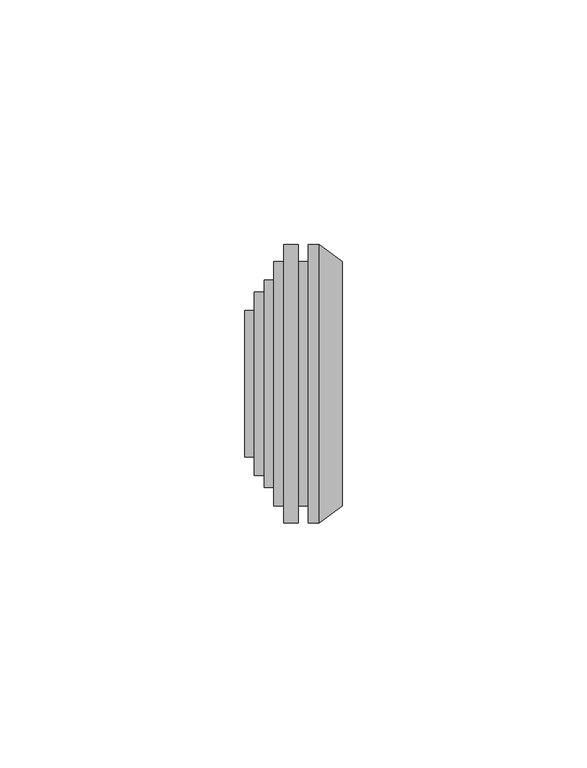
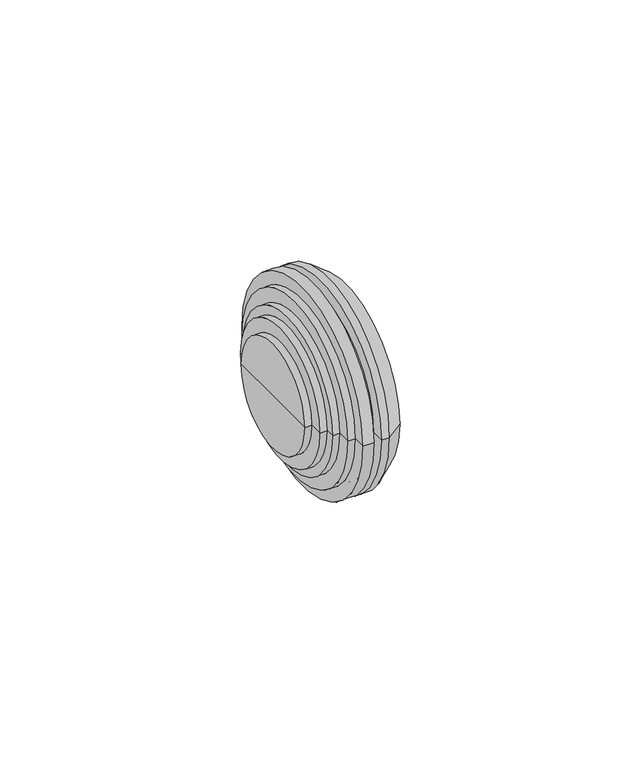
"""IFC4 building model written with IfcOpenShell, lengths in millimetres: cable carrier fitting geometry, КНС_КабельныйВводДляТруб_IP55_DKC : Коробка."""

from ifc_helpers import new_model, si_unit, frame, origin, place, context, project, spatial, polyline, circle_curve, source, transform, mapped, element, save
from ifc_brep_helpers import plane_surface, cylinder_surface, revolved_surface, advanced_brep


def cable_carrier_fitting_f241299a(model_context):
    return source(origin(), model_context, "Body", "AdvancedBrep", [
        advanced_brep(
        [(11.0, -25.0, 0.0), (11.0, 25.0, 0.0), (11.0, 28.5, 0.0), (11.0, -28.5, 0.0), (9.0, -25.0, 0.0), (9.0, 25.0, 0.0), (9.0, -28.5, 0.0), (9.0, 28.5, 0.0), (6.0, -28.5, 0.0), (6.0, 28.5, 0.0), (6.0, -25.0, 0.0), (6.0, 25.0, 0.0), (4.0, -25.0, 0.0), (4.0, 25.0, 0.0), (4.0, -21.25, 0.0), (4.0, 21.25, 0.0), (2.0, -21.25, 0.0), (2.0, 21.25, 0.0), (2.0, -18.75, 0.0), (2.0, 18.75, 0.0), (0.0, -18.75, 0.0), (0.0, 18.75, 0.0), (0.0, -15.0, 0.0), (0.0, 15.0, 0.0), (-2.0, -15.0, 0.0), (-2.0, 15.0, 0.0), (-2.0, 0.0, 0.0), (18.0, -25.0, 0.0), (18.0, 25.0, 0.0), (18.0, 0.0, 0.0), (13.2508863, -28.5, 0.0), (13.2508863, 28.5, 0.0)],
        [
            (0, 1, circle_curve(frame((11.0, 0.0, 0.0), z_axis=(1.0, 0.0, 0.0), x_axis=(0.0, 1.0, 0.0)), 25.0)),
            (1, 2),
            (2, 3, circle_curve(frame((11.0, 0.0, 0.0), z_axis=(-1.0, 0.0, 0.0), x_axis=(0.0, 1.0, 0.0)), 28.5)),
            (3, 0),
            (1, 0, circle_curve(frame((11.0, 0.0, 0.0), z_axis=(1.0, 0.0, 0.0), x_axis=(0.0, 1.0, 0.0)), 25.0)),
            (3, 2, circle_curve(frame((11.0, 0.0, 0.0), z_axis=(-1.0, 0.0, 0.0), x_axis=(0.0, 1.0, 0.0)), 28.5)),
            (4, 5, circle_curve(frame((9.0, 0.0, 0.0), z_axis=(1.0, 0.0, 0.0), x_axis=(0.0, 1.0, 0.0)), 25.0)),
            (5, 1),
            (0, 4),
            (5, 4, circle_curve(frame((9.0, 0.0, 0.0), z_axis=(1.0, 0.0, 0.0), x_axis=(0.0, 1.0, 0.0)), 25.0)),
            (6, 7, circle_curve(frame((9.0, 0.0, 0.0), z_axis=(1.0, 0.0, 0.0), x_axis=(0.0, 1.0, 0.0)), 28.5)),
            (7, 5),
            (4, 6),
            (7, 6, circle_curve(frame((9.0, 0.0, 0.0), z_axis=(1.0, 0.0, 0.0), x_axis=(0.0, 1.0, 0.0)), 28.5)),
            (8, 9, circle_curve(frame((6.0, 0.0, 0.0), z_axis=(1.0, 0.0, 0.0), x_axis=(0.0, 1.0, 0.0)), 28.5)),
            (9, 7),
            (6, 8),
            (9, 8, circle_curve(frame((6.0, 0.0, 0.0), z_axis=(1.0, 0.0, 0.0), x_axis=(0.0, 1.0, 0.0)), 28.5)),
            (10, 11, circle_curve(frame((6.0, 0.0, 0.0), z_axis=(1.0, 0.0, 0.0), x_axis=(0.0, 1.0, 0.0)), 25.0)),
            (11, 9),
            (8, 10),
            (11, 10, circle_curve(frame((6.0, 0.0, 0.0), z_axis=(1.0, 0.0, 0.0), x_axis=(0.0, 1.0, 0.0)), 25.0)),
            (12, 13, circle_curve(frame((4.0, 0.0, 0.0), z_axis=(1.0, 0.0, 0.0), x_axis=(0.0, 1.0, 0.0)), 25.0)),
            (13, 11),
            (10, 12),
            (13, 12, circle_curve(frame((4.0, 0.0, 0.0), z_axis=(1.0, 0.0, 0.0), x_axis=(0.0, 1.0, 0.0)), 25.0)),
            (14, 15, circle_curve(frame((4.0, 0.0, 0.0), z_axis=(1.0, 0.0, 0.0), x_axis=(0.0, 1.0, 0.0)), 21.25)),
            (15, 13),
            (12, 14),
            (15, 14, circle_curve(frame((4.0, 0.0, 0.0), z_axis=(1.0, 0.0, 0.0), x_axis=(0.0, 1.0, 0.0)), 21.25)),
            (16, 17, circle_curve(frame((2.0, 0.0, 0.0), z_axis=(1.0, 0.0, 0.0), x_axis=(0.0, 1.0, 0.0)), 21.25)),
            (17, 15),
            (14, 16),
            (17, 16, circle_curve(frame((2.0, 0.0, 0.0), z_axis=(1.0, 0.0, 0.0), x_axis=(0.0, 1.0, 0.0)), 21.25)),
            (18, 19, circle_curve(frame((2.0, 0.0, 0.0), z_axis=(1.0, 0.0, 0.0), x_axis=(0.0, 1.0, 0.0)), 18.75)),
            (19, 17),
            (16, 18),
            (19, 18, circle_curve(frame((2.0, 0.0, 0.0), z_axis=(1.0, 0.0, 0.0), x_axis=(0.0, 1.0, 0.0)), 18.75)),
            (20, 21, circle_curve(frame((0.0, 0.0, 0.0), z_axis=(1.0, 0.0, 0.0), x_axis=(0.0, 1.0, 0.0)), 18.75)),
            (21, 19),
            (18, 20),
            (21, 20, circle_curve(frame((0.0, 0.0, 0.0), z_axis=(1.0, 0.0, 0.0), x_axis=(0.0, 1.0, 0.0)), 18.75)),
            (22, 23, circle_curve(frame((0.0, 0.0, 0.0), z_axis=(1.0, 0.0, 0.0), x_axis=(0.0, 1.0, 0.0)), 15.0)),
            (23, 21),
            (20, 22),
            (23, 22, circle_curve(frame((0.0, 0.0, 0.0), z_axis=(1.0, 0.0, 0.0), x_axis=(0.0, 1.0, 0.0)), 15.0)),
            (24, 25, circle_curve(frame((-2.0, 0.0, 0.0), z_axis=(1.0, 0.0, 0.0), x_axis=(0.0, 1.0, 0.0)), 15.0)),
            (25, 23),
            (22, 24),
            (25, 24, circle_curve(frame((-2.0, 0.0, 0.0), z_axis=(1.0, 0.0, 0.0), x_axis=(0.0, 1.0, 0.0)), 15.0)),
            (26, 25),
            (24, 26),
            (27, 28, circle_curve(frame((18.0, 0.0, 0.0), z_axis=(1.0, 0.0, 0.0), x_axis=(0.0, 1.0, 0.0)), 25.0)),
            (28, 29),
            (29, 27),
            (28, 27, circle_curve(frame((18.0, 0.0, 0.0), z_axis=(1.0, 0.0, 0.0), x_axis=(0.0, 1.0, 0.0)), 25.0)),
            (30, 31, circle_curve(frame((13.2508863, 0.0, 0.0), z_axis=(1.0, 0.0, 0.0), x_axis=(0.0, 1.0, 0.0)), 28.5)),
            (31, 28),
            (27, 30),
            (31, 30, circle_curve(frame((13.2508863, 0.0, 0.0), z_axis=(1.0, 0.0, 0.0), x_axis=(0.0, 1.0, 0.0)), 28.5)),
            (2, 31),
            (30, 3),
        ],
        [
            plane_surface(frame((11.0, 0.0, 0.0), z_axis=(-1.0, 0.0, 0.0), x_axis=(0.0, 1.0, 0.0))),
            cylinder_surface(frame((1524.0, 0.0, 0.0), z_axis=(-1.0, 0.0, 0.0), x_axis=(0.0, 1.0, 0.0)), 25.0),
            plane_surface(frame((9.0, 0.0, 0.0), z_axis=(1.0, 0.0, 0.0), x_axis=(0.0, 1.0, 0.0))),
            cylinder_surface(frame((1524.0, 0.0, 0.0), z_axis=(-1.0, 0.0, 0.0), x_axis=(0.0, 1.0, 0.0)), 28.5),
            plane_surface(frame((6.0, 0.0, 0.0), z_axis=(-1.0, 0.0, 0.0), x_axis=(0.0, 1.0, 0.0))),
            plane_surface(frame((4.0, 0.0, 0.0), z_axis=(-1.0, 0.0, 0.0), x_axis=(0.0, 1.0, 0.0))),
            cylinder_surface(frame((1524.0, 0.0, 0.0), z_axis=(-1.0, 0.0, 0.0), x_axis=(0.0, 1.0, 0.0)), 21.25),
            plane_surface(frame((2.0, 0.0, 0.0), z_axis=(-1.0, 0.0, 0.0), x_axis=(0.0, 1.0, 0.0))),
            cylinder_surface(frame((1524.0, 0.0, 0.0), z_axis=(-1.0, 0.0, 0.0), x_axis=(0.0, 1.0, 0.0)), 18.75),
            plane_surface(frame((0.0, 0.0, 0.0), z_axis=(-1.0, 0.0, 0.0), x_axis=(0.0, 1.0, 0.0))),
            cylinder_surface(frame((1524.0, 0.0, 0.0), z_axis=(-1.0, 0.0, 0.0), x_axis=(0.0, 1.0, 0.0)), 15.0),
            plane_surface(frame((-2.0, 0.0, 0.0), z_axis=(-1.0, 0.0, 0.0), x_axis=(0.0, 1.0, 0.0))),
            plane_surface(frame((18.0, 0.0, 0.0), z_axis=(1.0, 0.0, 0.0), x_axis=(0.0, 1.0, 0.0))),
            revolved_surface(polyline([(18.0, 25.0, 0.0), (13.2508863, 28.5, 0.0)]), (1524.0, 0.0, 0.0), (-1.0, 0.0, 0.0)),
        ],
        [
            (0, [[1, 2, 3, 4]]),
            (0, [[5, -4, 6, -2]]),
            (1, [[7, 8, -1, 9]]),
            (1, [[10, -9, -5, -8]]),
            (2, [[11, 12, -7, 13]]),
            (2, [[14, -13, -10, -12]]),
            (3, [[15, 16, -11, 17]]),
            (3, [[18, -17, -14, -16]]),
            (4, [[19, 20, -15, 21]]),
            (4, [[22, -21, -18, -20]]),
            (1, [[23, 24, -19, 25]]),
            (1, [[26, -25, -22, -24]]),
            (5, [[27, 28, -23, 29]]),
            (5, [[30, -29, -26, -28]]),
            (6, [[31, 32, -27, 33]]),
            (6, [[34, -33, -30, -32]]),
            (7, [[35, 36, -31, 37]]),
            (7, [[38, -37, -34, -36]]),
            (8, [[39, 40, -35, 41]]),
            (8, [[42, -41, -38, -40]]),
            (9, [[43, 44, -39, 45]]),
            (9, [[46, -45, -42, -44]]),
            (10, [[47, 48, -43, 49]]),
            (10, [[50, -49, -46, -48]]),
            (11, [[51, -47, 52]]),
            (11, [[-52, -50, -51]]),
            (12, [[53, 54, 55]]),
            (12, [[56, -55, -54]]),
            (13, [[57, 58, -53, 59]]),
            (13, [[60, -59, -56, -58]]),
            (3, [[-3, 61, -57, 62]]),
            (3, [[-6, -62, -60, -61]]),
        ],
    ),
    ])


if __name__ == "__main__":
    model = new_model("IFC4")
    model_context = context("Model", 3, world=origin())
    ifc_project = project(units=[si_unit("LENGTHUNIT", "METRE", prefix="MILLI")], contexts=[model_context])
    site = spatial("IfcSite", under=ifc_project)
    building = spatial("IfcBuilding", under=site)
    placement = place(None, origin())
    cable_carrier_fitting_shape = cable_carrier_fitting_f241299a(model_context)
    element("IfcCableCarrierFitting", 1, ObjectType="КНС_КабельныйВводДляТруб_IP55_DKC : Коробка", at=placement, inside=building, context=model_context, shape_type="MappedRepresentation", body=[
        mapped(cable_carrier_fitting_shape, transform((0.0, 0.0, 0.0), x_axis=(1.0, 0.0, 0.0), y_axis=(0.0, 1.0, 0.0), z_axis=(0.0, 0.0, 1.0))),
    ])
    save(model, "model.ifc")
